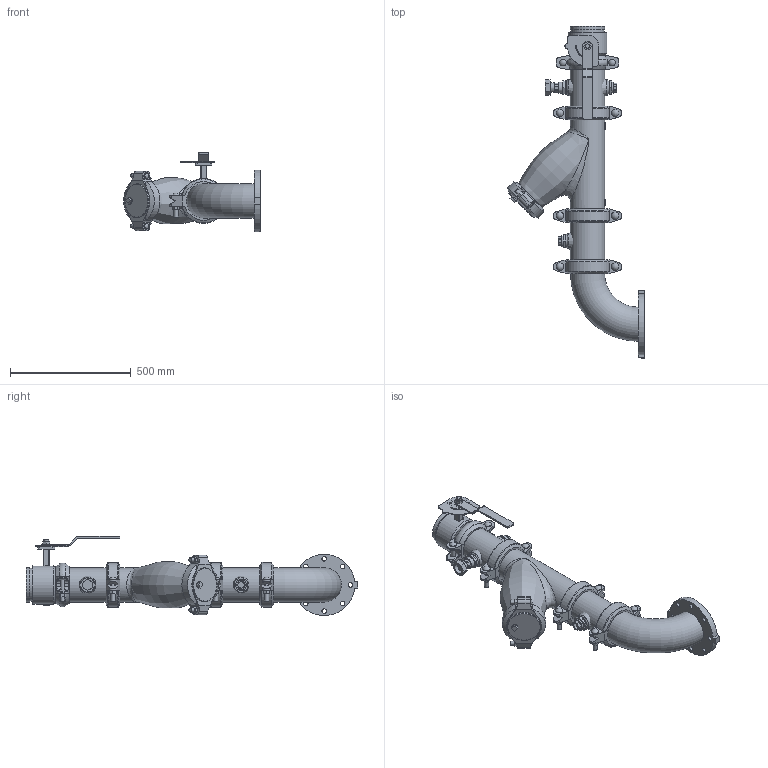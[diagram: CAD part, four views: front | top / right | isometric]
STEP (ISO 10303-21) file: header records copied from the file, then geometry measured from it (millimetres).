
FILE_DESCRIPTION(/* description */ ('VIC SVI PUMP DROP HORZ S/382 (OGSxFLG) (S/924-1.25)','CAx-IF Rec.Pracs.---Representation and Presentation of Product Manufacturing Information (PMI)---4.0---2014-10-13'),/* implementation_level */ '2;1');
FILE_NAME(/* name */ 'C:\Users\Vjadhav\AppData\Roaming\Autodesk\ApplicationPlugins\Victaulic.Temp\A562\Victaulic_IPS_Horizontal SVI_CL 150_Series 382 (OGSxFLG)_924 (1.25)_05.0x05.0 (125x125).stp',/* time_stamp */ '2022-02-28T19:58:48+05:00',/* author */ ('kkamble'),/* organization */ ('Victaulic'),/* preprocessor_version */ 'ST-DEVELOPER v17.2',/* originating_system */ 'Autodesk Inventor 2019',/* authorisation */ '');
FILE_SCHEMA (('AP242_MANAGED_MODEL_BASED_3D_ENGINEERING_MIM_LF { 1 0 10303 442 1 1 4 }'));
Length unit declared in the file: inch
Products named in the file (14): 382_924 (1.25)-05.0x05.0; PIPE-05.0; 107N-05.0; 732-05.0; 732-05.0_1; 07-05.0; 732-05.0_2; 100-05.0; PIPE-05.4; 761-05.0; 741-05.0; 177N-05.0; 924-04.0x01.25; 923-04.0x0.75
Assembly tree (16 placements, depth 3):
  382_924 (1.25)-05.0x05.0
    PIPE-05.0
    107N-05.0
    732-05.0
      732-05.0_1
      07-05.0
      732-05.0_2
    177N-05.0  x3
    100-05.0
    PIPE-05.4
    761-05.0
    741-05.0
    923-04.0x0.75  x2
    924-04.0x01.25
Bounding box: 565.15 x 1373.19 x 326.93 mm (x, y, z)
Volume: 10480471 mm3; surface area: 2336322.2 mm2
Topology: 15 solids, 19 shells, 891 faces, 2296 edges, 1529 vertices
Faces by surface type: plane 500, cylinder 296, torus 32, cone 27, bspline 26, sphere 10
Full cylindrical faces by diameter (mm): 4.826 x10, 8.636 x4, 15.875 x8, 17.78 x6, 19.05 x10, 21.336 x1, 22.86 x1, 25.4 x3, 26.67 x3, 27.381 x2, 30.48 x6, 38.608 x1, 42.164 x1, 45.974 x6, 48.514 x1, 55.118 x1, 55.626 x3, 117.602 x1, 127.356 x1, 127.584 x1, 128.194 x5, 128.6 x4, 134.95 x1, 137.033 x12, 141.3 x28, 160.02 x1
Entity records: 25076 total; most frequent: CARTESIAN_POINT 7446, DIRECTION 3582, ORIENTED_EDGE 3328, EDGE_CURVE 1664, AXIS2_PLACEMENT_3D 1359, VERTEX_POINT 1113, LINE 864, VECTOR 864
